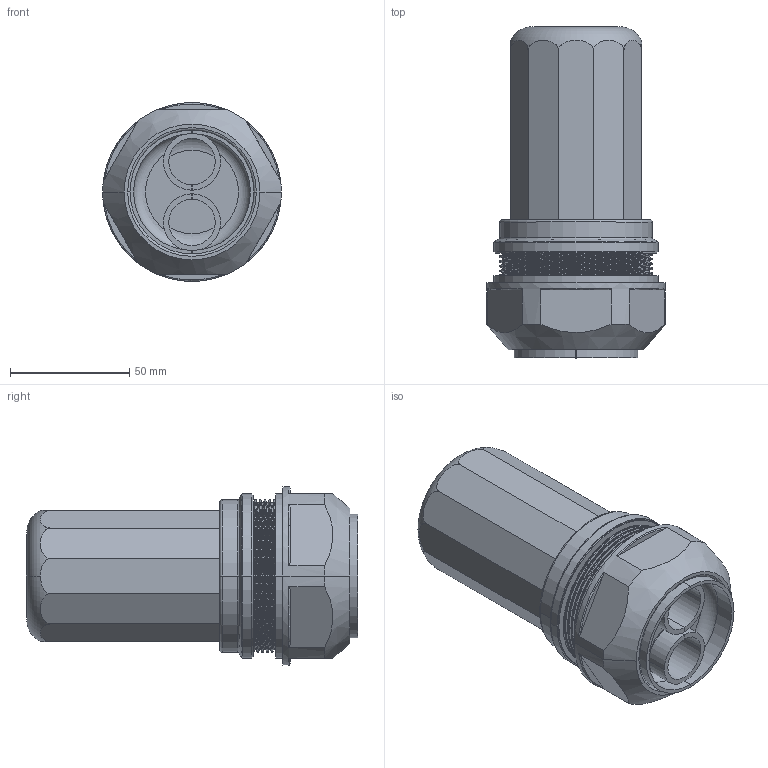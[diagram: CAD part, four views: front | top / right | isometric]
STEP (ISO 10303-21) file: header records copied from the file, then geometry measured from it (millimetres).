
FILE_DESCRIPTION(('Creo Elements/Direct Modeling STEP Export'),'2;1');
FILE_NAME('20120531-.igs.stp','2012-09-20T13:19:52',(''),(''),'Creo Elements/Direct Modeling STEP processor for AP214 (Solid Model)','Creo Elements/Direct Modeling 18.0B 02-Dec-2011 (C) Parametric Technology GmbH','');
FILE_SCHEMA(('AUTOMOTIVE_DESIGN { 1 0 10303 214 1 1 1 1 }'));
Length unit declared in the file: millimetre
Products named in the file (5): OA-QW23_本体; OA-QW23_ゴムブッシュ; G22-19.2; G22-19.1; OA-QW23
Assembly tree (4 placements, depth 2):
  OA-QW23
    G22-19.1
    G22-19.2
    OA-QW23_ゴムブッシュ
    OA-QW23_本体
Bounding box: 75 x 139.3 x 75 mm (x, y, z)
Volume: 155625.7 mm3; surface area: 85900 mm2
Topology: 4 solids, 4 shells, 202 faces, 524 edges, 340 vertices
Faces by surface type: cylinder 80, plane 66, torus 28, cone 22, bspline 6
Entity records: 17380 total; most frequent: CARTESIAN_POINT 12790, ORIENTED_EDGE 1048, DIRECTION 787, EDGE_CURVE 524, VERTEX_POINT 340, AXIS2_PLACEMENT_3D 309, EDGE_LOOP 212, FACE_OUTER_BOUND 202
